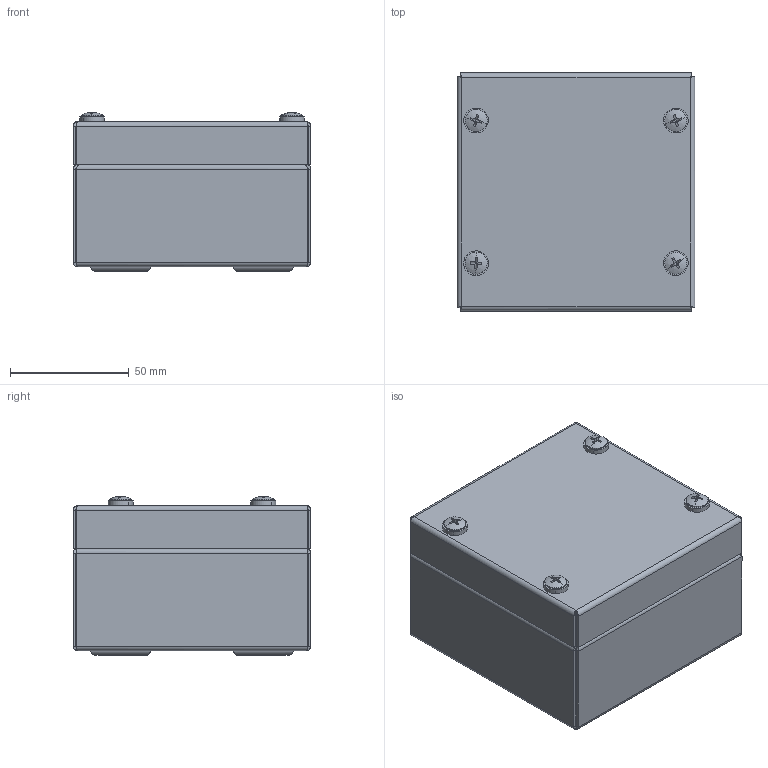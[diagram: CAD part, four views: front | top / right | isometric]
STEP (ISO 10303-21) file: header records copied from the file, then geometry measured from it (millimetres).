
FILE_DESCRIPTION (( 'STEP AP203' ), '1' );
FILE_NAME ('SS JB-100 x 100 x 61-ASSEMBLY.STEP', '2020-03-13T09:44:01', ( '' ), ( '' ), 'SwSTEP 2.0', 'SolidWorks 2018', '' );
FILE_SCHEMA (( 'CONFIG_CONTROL_DESIGN' ));
Length unit declared in the file: millimetre
Products named in the file (10): Gasket-SS 100 x 100 x 61; SS JB-100 x 100 x 61-BASE_100 x 100 x 61; SS JB-100 x 100 x 61-ASSEMBLY; S.S. NUT SERT M5; JB M6 ( Base Earthing Screw ); SS JB-100 x 100 x 61-LID_100 x 100 x 61; SS JB-100 x 100 x 61-LID ASSEMBLY; PLASTIC INSERT FOR FABRICATED ENCLOSURE; M5X33 LID SCREW; Dinral Mounting Channel-100
Assembly tree (20 placements, depth 3):
  SS JB-100 x 100 x 61-ASSEMBLY
    SS JB-100 x 100 x 61-BASE_100 x 100 x 61
    Dinral Mounting Channel-100  x2
    SS JB-100 x 100 x 61-LID ASSEMBLY
      SS JB-100 x 100 x 61-LID_100 x 100 x 61
      Gasket-SS 100 x 100 x 61
    S.S. NUT SERT M5  x4
    JB M6 ( Base Earthing Screw )  x2
    PLASTIC INSERT FOR FABRICATED ENCLOSURE  x4
    M5X33 LID SCREW  x4
Bounding box: 100 x 100 x 66.81 mm (x, y, z)
Volume: 97164.6 mm3; surface area: 128285.9 mm2
Topology: 19 solids, 19 shells, 845 faces, 2038 edges, 1268 vertices
Faces by surface type: cylinder 358, plane 331, cone 108, bspline 36, sphere 12
Entity records: 18815 total; most frequent: CARTESIAN_POINT 6955, ORIENTED_EDGE 2268, DIRECTION 2022, EDGE_CURVE 1134, VERTEX_POINT 690, AXIS2_PLACEMENT_3D 683, LINE 656, VECTOR 656
